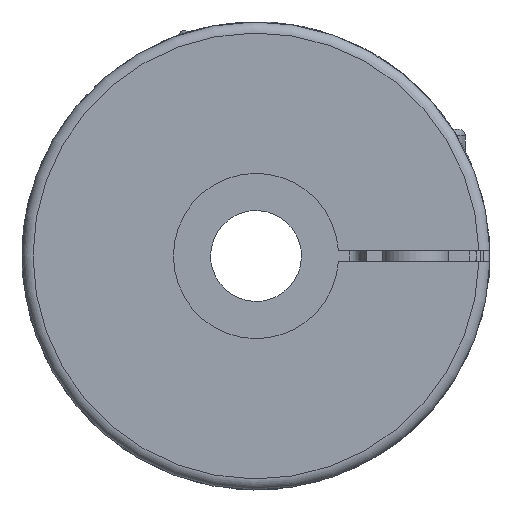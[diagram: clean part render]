
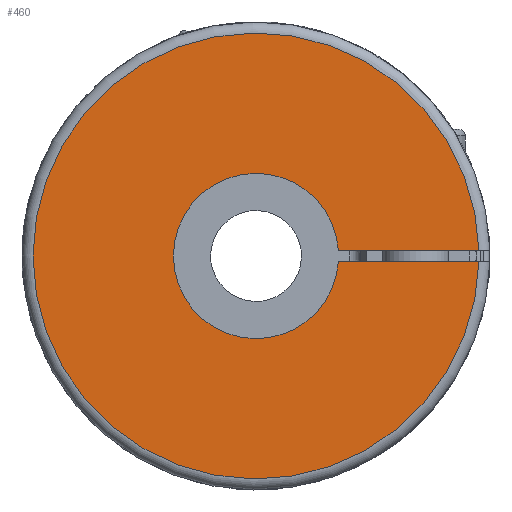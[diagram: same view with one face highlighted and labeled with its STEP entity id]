
A CAD part, left-side view. The second image highlights one B-rep face of the part: STEP entity #460.
In plain terms, the highlighted planar face has unit normal (-1, 0, 0).
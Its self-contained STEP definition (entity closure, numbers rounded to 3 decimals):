
#460 = ADVANCED_FACE( '', ( #1085 ), #1086, .T. );
#1085 = FACE_OUTER_BOUND( '', #1898, .T. );
#1086 = PLANE( '', #1899 );
#1898 = EDGE_LOOP( '', ( #3258, #3259, #3260, #3261 ) );
#1899 = AXIS2_PLACEMENT_3D( '', #3262, #3263, #3264 );
#3258 = ORIENTED_EDGE( '', *, *, #5099, .T. );
#3259 = ORIENTED_EDGE( '', *, *, #5100, .F. );
#3260 = ORIENTED_EDGE( '', *, *, #5037, .T. );
#3261 = ORIENTED_EDGE( '', *, *, #5101, .T. );
#3262 = CARTESIAN_POINT( '', ( 0., 0., 9. ) );
#3263 = DIRECTION( '', ( -1., 0., 0. ) );
#3264 = DIRECTION( '', ( 0., 0., 1. ) );
#5037 = EDGE_CURVE( '', #6205, #6206, #6207, .T. );
#5099 = EDGE_CURVE( '', #6297, #6298, #6299, .T. );
#5100 = EDGE_CURVE( '', #6205, #6298, #6300, .T. );
#5101 = EDGE_CURVE( '', #6206, #6297, #6301, .T. );
#6205 = VERTEX_POINT( '', #8257 );
#6206 = VERTEX_POINT( '', #8258 );
#6207 = LINE( '', #8259, #8260 );
#6297 = VERTEX_POINT( '', #8433 );
#6298 = VERTEX_POINT( '', #8434 );
#6299 = LINE( '', #8435, #8436 );
#6300 = CIRCLE( '', #8437, 15. );
#6301 = CIRCLE( '', #8438, 40.5 );
#8257 = CARTESIAN_POINT( '', ( 0., -14.967, 1. ) );
#8258 = CARTESIAN_POINT( '', ( 0., -40.488, 1. ) );
#8259 = CARTESIAN_POINT( '', ( 0., -5.247, 1. ) );
#8260 = VECTOR( '', #10053, 1000. );
#8433 = CARTESIAN_POINT( '', ( 0., -40.488, -1. ) );
#8434 = CARTESIAN_POINT( '', ( 0., -14.967, -1. ) );
#8435 = CARTESIAN_POINT( '', ( 0., -47.052, -1. ) );
#8436 = VECTOR( '', #10126, 1000. );
#8437 = AXIS2_PLACEMENT_3D( '', #10127, #10128, #10129 );
#8438 = AXIS2_PLACEMENT_3D( '', #10130, #10131, #10132 );
#10053 = DIRECTION( '', ( 0., -1., 0. ) );
#10126 = DIRECTION( '', ( 0., 1., 0. ) );
#10127 = CARTESIAN_POINT( '', ( 0., 0., 0. ) );
#10128 = DIRECTION( '', ( -1., 0., 0. ) );
#10129 = DIRECTION( '', ( 0., -1., 0. ) );
#10130 = CARTESIAN_POINT( '', ( 0., 0., 0. ) );
#10131 = DIRECTION( '', ( -1., 0., 0. ) );
#10132 = DIRECTION( '', ( 0., 0., 1. ) );
